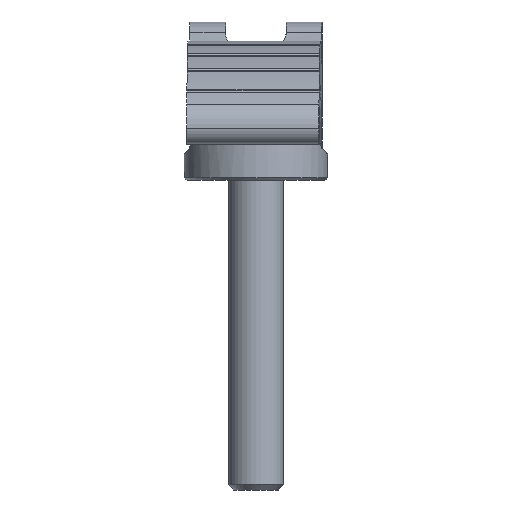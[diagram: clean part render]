
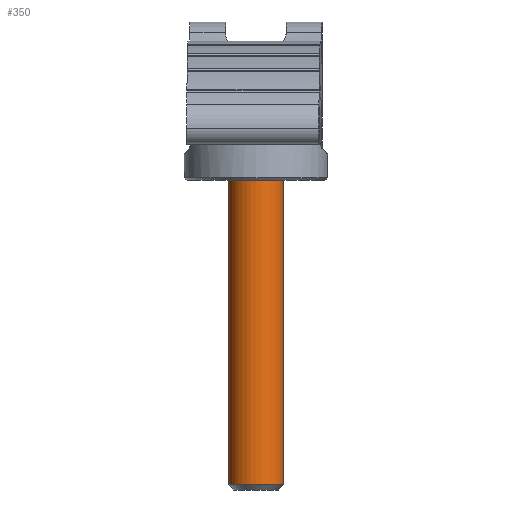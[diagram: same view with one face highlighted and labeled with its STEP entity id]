
A CAD part, left-side view. The second image highlights one B-rep face of the part: STEP entity #350.
In plain terms, the highlighted cylindrical face has radius 5 mm (diameter 10 mm), a full revolution.
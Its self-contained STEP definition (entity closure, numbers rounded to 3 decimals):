
#350=ADVANCED_FACE('',(#1155,#1157),#1159,.T.);
#1155=FACE_BOUND('',#1156,.T.);
#1156=EDGE_LOOP('',(#1581,#1582));
#1157=FACE_BOUND('',#1158,.T.);
#1158=EDGE_LOOP('',(#1583,#1584));
#1159=CYLINDRICAL_SURFACE('',#1160,5.);
#1160=AXIS2_PLACEMENT_3D('',#1161,#1162,#1163);
#1161=CARTESIAN_POINT('',(0.,0.,0.));
#1162=DIRECTION('',(-1.,0.,0.));
#1163=DIRECTION('',(0.,1.,0.));
#1581=ORIENTED_EDGE('',*,*,#1802,.T.);
#1582=ORIENTED_EDGE('',*,*,#1803,.T.);
#1583=ORIENTED_EDGE('',*,*,#1804,.T.);
#1584=ORIENTED_EDGE('',*,*,#1805,.T.);
#1802=EDGE_CURVE('',#2093,#2094,#2095,.T.);
#1803=EDGE_CURVE('',#2094,#2093,#2096,.T.);
#1804=EDGE_CURVE('',#2097,#2098,#2099,.T.);
#1805=EDGE_CURVE('',#2098,#2097,#2100,.T.);
#2093=VERTEX_POINT('',#4278);
#2094=VERTEX_POINT('',#4279);
#2095=CIRCLE('',#4280,5.);
#2096=CIRCLE('',#4284,5.);
#2097=VERTEX_POINT('',#4288);
#2098=VERTEX_POINT('',#4289);
#2099=CIRCLE('',#4290,5.);
#2100=CIRCLE('',#4294,5.);
#4278=CARTESIAN_POINT('',(-1.,5.,0.));
#4279=CARTESIAN_POINT('',(-1.,-5.,0.));
#4280=AXIS2_PLACEMENT_3D('',#4281,#4282,#4283);
#4281=CARTESIAN_POINT('',(-1.,0.,0.));
#4282=DIRECTION('',(-1.,0.,0.));
#4283=DIRECTION('',(0.,1.,0.));
#4284=AXIS2_PLACEMENT_3D('',#4285,#4286,#4287);
#4285=CARTESIAN_POINT('',(-1.,0.,0.));
#4286=DIRECTION('',(-1.,0.,0.));
#4287=DIRECTION('',(0.,-1.,0.));
#4288=CARTESIAN_POINT('',(-79.,5.,0.));
#4289=CARTESIAN_POINT('',(-79.,0.,5.));
#4290=AXIS2_PLACEMENT_3D('',#4291,#4292,#4293);
#4291=CARTESIAN_POINT('',(-79.,0.,0.));
#4292=DIRECTION('',(1.,0.,0.));
#4293=DIRECTION('',(0.,1.,0.));
#4294=AXIS2_PLACEMENT_3D('',#4295,#4296,#4297);
#4295=CARTESIAN_POINT('',(-79.,0.,0.));
#4296=DIRECTION('',(1.,0.,0.));
#4297=DIRECTION('',(0.,0.,1.));
